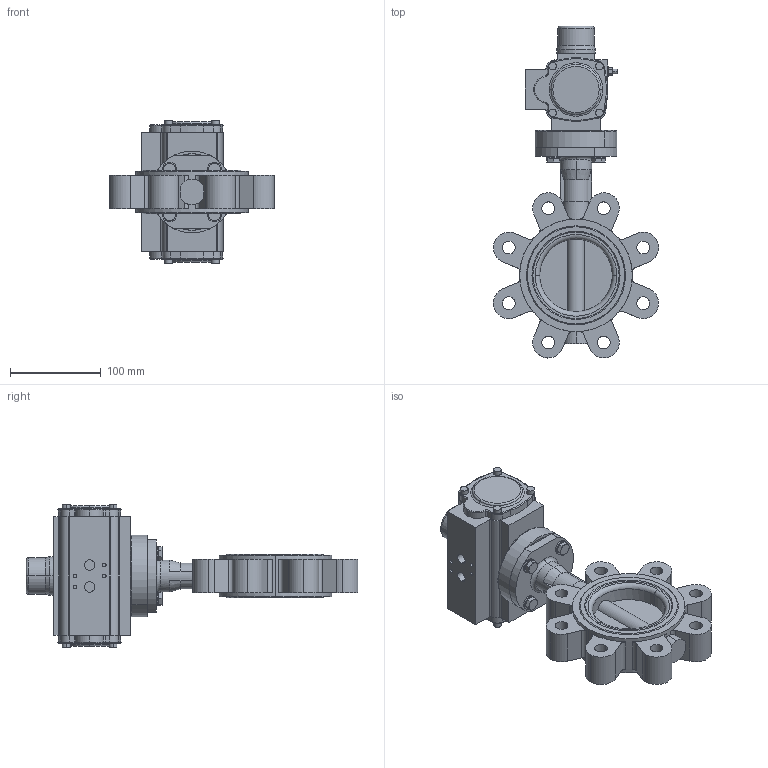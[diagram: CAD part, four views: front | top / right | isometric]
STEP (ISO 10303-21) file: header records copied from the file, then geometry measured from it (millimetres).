
FILE_DESCRIPTION (( 'STEP AP214' ), '1' );
FILE_NAME ('67704.step', '2020-10-26T07:27:24', ( '' ), ( '' ), 'SwSTEP 2.0', 'SolidWorks 2019', '' );
FILE_SCHEMA (( 'AUTOMOTIVE_DESIGN' ));
Length unit declared in the file: millimetre
Products named in the file (10): U-Scheibe DIN 125 A_M8; Zyl-Schr In-6kt DIN 912_M6x16; DA0040-V14_01; TL20-0080_M01; 67335_15x15x2 - L=18; 6kt-Schr DIN 933_M8x30; Flanschadapter F07-F05; 67704; 6kt-Mu DIN 934_M8; Achtkantreduktion 14-11 mm
Assembly tree (21 placements, depth 2):
  67704
    TL20-0080_M01
    Flanschadapter F07-F05
    Achtkantreduktion 14-11 mm
    DA0040-V14_01
    6kt-Schr DIN 933_M8x30  x4
    U-Scheibe DIN 125 A_M8  x4
    67335_15x15x2 - L=18
    6kt-Mu DIN 934_M8  x4
    Zyl-Schr In-6kt DIN 912_M6x16  x4
Bounding box: 181.8 x 365.41 x 157.9 mm (x, y, z)
Volume: 1797673.9 mm3; surface area: 237333.5 mm2
Topology: 22 solids, 22 shells, 998 faces, 2456 edges, 1555 vertices
Faces by surface type: plane 460, cylinder 358, cone 116, torus 54, bspline 10
Entity records: 26873 total; most frequent: CARTESIAN_POINT 5247, DIRECTION 4265, ORIENTED_EDGE 3876, EDGE_CURVE 1938, AXIS2_PLACEMENT_3D 1648, VERTEX_POINT 1252, VECTOR 969, LINE 969
